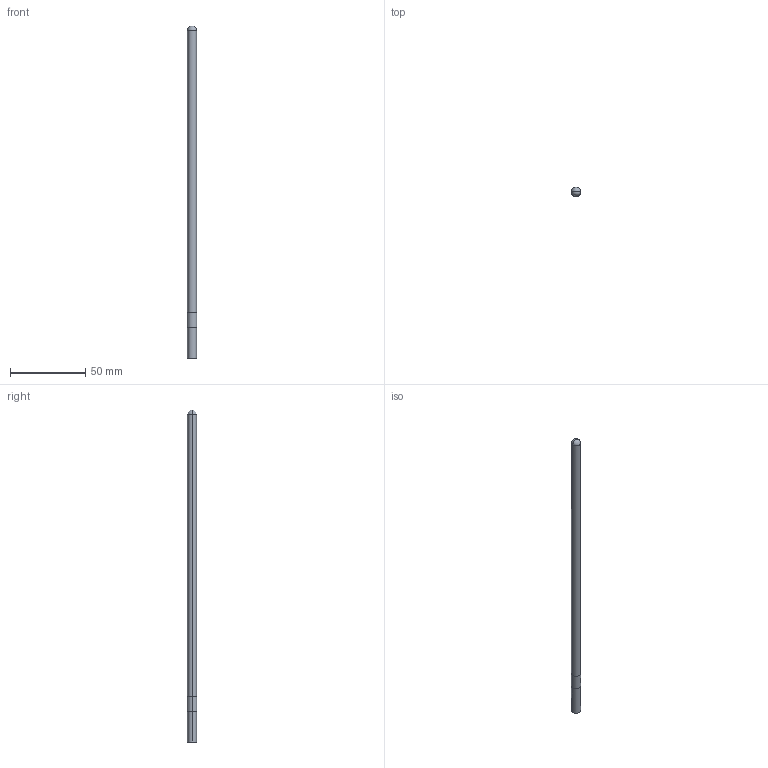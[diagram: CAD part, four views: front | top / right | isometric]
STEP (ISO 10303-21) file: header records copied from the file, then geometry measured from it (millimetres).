
FILE_DESCRIPTION (( 'STEP AP203' ), '1' );
FILE_NAME ('HTF200-PT1000-PVC-2.STEP', '2019-10-08T11:53:05', ( '' ), ( '' ), 'SwSTEP 2.0', 'SolidWorks 2016', '' );
FILE_SCHEMA (( 'CONFIG_CONTROL_DESIGN' ));
Length unit declared in the file: millimetre
Products named in the file (1): HTF200-PT1000-PVC-2
Bounding box: 6.2 x 6.2 x 220 mm (x, y, z)
Volume: 6211.2 mm3; surface area: 4185.3 mm2
Topology: 1 solids, 1 shells, 11 faces, 24 edges, 15 vertices
Faces by surface type: cylinder 6, plane 3, sphere 2
Entity records: 357 total; most frequent: DIRECTION 58, CARTESIAN_POINT 45, ORIENTED_EDGE 40, AXIS2_PLACEMENT_3D 26, EDGE_CURVE 20, CIRCLE 14, EDGE_LOOP 13, VERTEX_POINT 13
